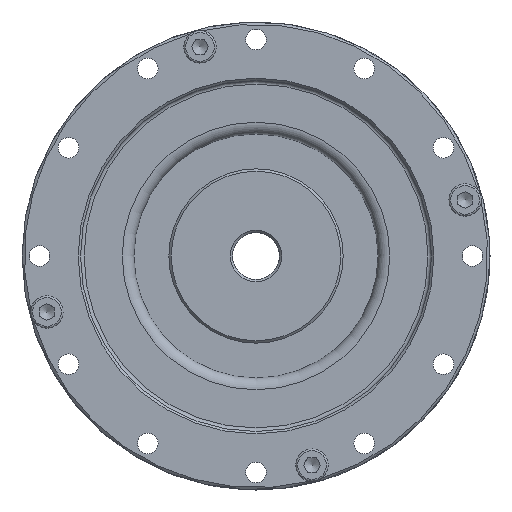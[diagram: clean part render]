
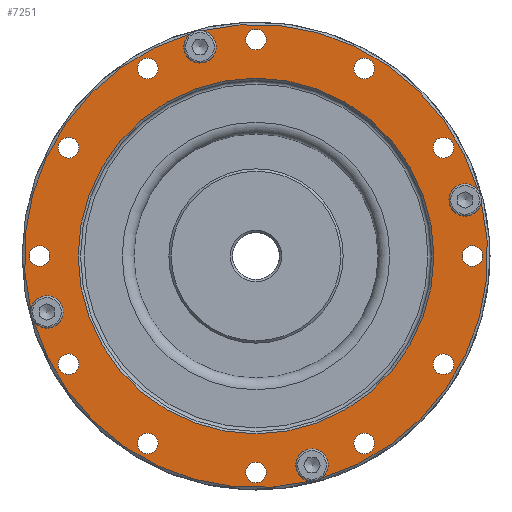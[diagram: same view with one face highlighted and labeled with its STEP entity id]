
A CAD part, left-side view. The second image highlights one B-rep face of the part: STEP entity #7251.
In plain terms, the highlighted planar face has unit normal (-1, 0, 0).
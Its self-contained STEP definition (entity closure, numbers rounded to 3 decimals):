
#757=PLANE('',#8301);
#1171=FACE_BOUND('',#2291,.T.);
#1172=FACE_BOUND('',#2292,.T.);
#1173=FACE_BOUND('',#2293,.T.);
#1174=FACE_BOUND('',#2294,.T.);
#1175=FACE_BOUND('',#2295,.T.);
#1176=FACE_BOUND('',#2296,.T.);
#1177=FACE_BOUND('',#2297,.T.);
#1178=FACE_BOUND('',#2298,.T.);
#1179=FACE_BOUND('',#2299,.T.);
#1180=FACE_BOUND('',#2300,.T.);
#1181=FACE_BOUND('',#2301,.T.);
#1182=FACE_BOUND('',#2302,.T.);
#1183=FACE_BOUND('',#2303,.T.);
#1624=FACE_OUTER_BOUND('',#2290,.T.);
#2290=EDGE_LOOP('',(#6164,#6165,#6166,#6167,#6168,#6169,#6170,#6171));
#2291=EDGE_LOOP('',(#6172));
#2292=EDGE_LOOP('',(#6173));
#2293=EDGE_LOOP('',(#6174));
#2294=EDGE_LOOP('',(#6175));
#2295=EDGE_LOOP('',(#6176));
#2296=EDGE_LOOP('',(#6177));
#2297=EDGE_LOOP('',(#6178));
#2298=EDGE_LOOP('',(#6179));
#2299=EDGE_LOOP('',(#6180));
#2300=EDGE_LOOP('',(#6181));
#2301=EDGE_LOOP('',(#6182));
#2302=EDGE_LOOP('',(#6183));
#2303=EDGE_LOOP('',(#6184));
#2782=CIRCLE('',#8004,2.75);
#2787=CIRCLE('',#8020,2.75);
#2900=CIRCLE('',#8245,1.75);
#2901=CIRCLE('',#8247,1.75);
#2902=CIRCLE('',#8249,1.75);
#2903=CIRCLE('',#8251,1.75);
#2904=CIRCLE('',#8253,1.75);
#2905=CIRCLE('',#8255,1.75);
#2906=CIRCLE('',#8257,1.75);
#2907=CIRCLE('',#8259,1.75);
#2908=CIRCLE('',#8261,1.75);
#2909=CIRCLE('',#8263,1.75);
#2910=CIRCLE('',#8265,1.75);
#2911=CIRCLE('',#8267,1.75);
#2914=CIRCLE('',#8274,30.4);
#2915=CIRCLE('',#8276,39.6);
#2917=CIRCLE('',#8278,39.6);
#2918=CIRCLE('',#8279,39.6);
#2920=CIRCLE('',#8281,39.6);
#2924=CIRCLE('',#8295,2.75);
#2927=CIRCLE('',#8302,2.75);
#3319=VERTEX_POINT('',#12103);
#3320=VERTEX_POINT('',#12104);
#3335=VERTEX_POINT('',#12165);
#3336=VERTEX_POINT('',#12166);
#3475=VERTEX_POINT('',#12615);
#3476=VERTEX_POINT('',#12618);
#3477=VERTEX_POINT('',#12621);
#3478=VERTEX_POINT('',#12624);
#3479=VERTEX_POINT('',#12627);
#3480=VERTEX_POINT('',#12630);
#3481=VERTEX_POINT('',#12633);
#3482=VERTEX_POINT('',#12636);
#3483=VERTEX_POINT('',#12639);
#3484=VERTEX_POINT('',#12642);
#3485=VERTEX_POINT('',#12645);
#3486=VERTEX_POINT('',#12648);
#3489=VERTEX_POINT('',#12658);
#3490=VERTEX_POINT('',#12661);
#3491=VERTEX_POINT('',#12663);
#3492=VERTEX_POINT('',#12666);
#3493=VERTEX_POINT('',#12668);
#4154=EDGE_CURVE('',#3320,#3319,#2782,.T.);
#4177=EDGE_CURVE('',#3336,#3335,#2787,.T.);
#4334=EDGE_CURVE('',#3475,#3475,#2900,.T.);
#4335=EDGE_CURVE('',#3476,#3476,#2901,.T.);
#4336=EDGE_CURVE('',#3477,#3477,#2902,.T.);
#4337=EDGE_CURVE('',#3478,#3478,#2903,.T.);
#4338=EDGE_CURVE('',#3479,#3479,#2904,.T.);
#4339=EDGE_CURVE('',#3480,#3480,#2905,.T.);
#4340=EDGE_CURVE('',#3481,#3481,#2906,.T.);
#4341=EDGE_CURVE('',#3482,#3482,#2907,.T.);
#4342=EDGE_CURVE('',#3483,#3483,#2908,.T.);
#4343=EDGE_CURVE('',#3484,#3484,#2909,.T.);
#4344=EDGE_CURVE('',#3485,#3485,#2910,.T.);
#4345=EDGE_CURVE('',#3486,#3486,#2911,.T.);
#4348=EDGE_CURVE('',#3489,#3489,#2914,.T.);
#4349=EDGE_CURVE('',#3336,#3490,#2915,.T.);
#4351=EDGE_CURVE('',#3491,#3319,#2917,.T.);
#4352=EDGE_CURVE('',#3320,#3492,#2918,.T.);
#4354=EDGE_CURVE('',#3493,#3335,#2920,.T.);
#4376=EDGE_CURVE('',#3491,#3490,#2924,.T.);
#4379=EDGE_CURVE('',#3493,#3492,#2927,.T.);
#6164=ORIENTED_EDGE('',*,*,#4379,.T.);
#6165=ORIENTED_EDGE('',*,*,#4352,.F.);
#6166=ORIENTED_EDGE('',*,*,#4154,.T.);
#6167=ORIENTED_EDGE('',*,*,#4351,.F.);
#6168=ORIENTED_EDGE('',*,*,#4376,.T.);
#6169=ORIENTED_EDGE('',*,*,#4349,.F.);
#6170=ORIENTED_EDGE('',*,*,#4177,.T.);
#6171=ORIENTED_EDGE('',*,*,#4354,.F.);
#6172=ORIENTED_EDGE('',*,*,#4348,.F.);
#6173=ORIENTED_EDGE('',*,*,#4345,.T.);
#6174=ORIENTED_EDGE('',*,*,#4344,.T.);
#6175=ORIENTED_EDGE('',*,*,#4343,.T.);
#6176=ORIENTED_EDGE('',*,*,#4342,.T.);
#6177=ORIENTED_EDGE('',*,*,#4341,.T.);
#6178=ORIENTED_EDGE('',*,*,#4340,.T.);
#6179=ORIENTED_EDGE('',*,*,#4339,.T.);
#6180=ORIENTED_EDGE('',*,*,#4338,.T.);
#6181=ORIENTED_EDGE('',*,*,#4337,.T.);
#6182=ORIENTED_EDGE('',*,*,#4336,.T.);
#6183=ORIENTED_EDGE('',*,*,#4335,.T.);
#6184=ORIENTED_EDGE('',*,*,#4334,.T.);
#7251=ADVANCED_FACE('',(#1624,#1171,#1172,#1173,#1174,#1175,#1176,#1177,
#1178,#1179,#1180,#1181,#1182,#1183),#757,.T.);
#8004=AXIS2_PLACEMENT_3D('',#12126,#9925,#9926);
#8020=AXIS2_PLACEMENT_3D('',#12188,#9969,#9970);
#8245=AXIS2_PLACEMENT_3D('',#12616,#10449,#10450);
#8247=AXIS2_PLACEMENT_3D('',#12619,#10453,#10454);
#8249=AXIS2_PLACEMENT_3D('',#12622,#10457,#10458);
#8251=AXIS2_PLACEMENT_3D('',#12625,#10461,#10462);
#8253=AXIS2_PLACEMENT_3D('',#12628,#10465,#10466);
#8255=AXIS2_PLACEMENT_3D('',#12631,#10469,#10470);
#8257=AXIS2_PLACEMENT_3D('',#12634,#10473,#10474);
#8259=AXIS2_PLACEMENT_3D('',#12637,#10477,#10478);
#8261=AXIS2_PLACEMENT_3D('',#12640,#10481,#10482);
#8263=AXIS2_PLACEMENT_3D('',#12643,#10485,#10486);
#8265=AXIS2_PLACEMENT_3D('',#12646,#10489,#10490);
#8267=AXIS2_PLACEMENT_3D('',#12649,#10493,#10494);
#8274=AXIS2_PLACEMENT_3D('',#12659,#10507,#10508);
#8276=AXIS2_PLACEMENT_3D('',#12662,#10511,#10512);
#8278=AXIS2_PLACEMENT_3D('',#12665,#10515,#10516);
#8279=AXIS2_PLACEMENT_3D('',#12667,#10517,#10518);
#8281=AXIS2_PLACEMENT_3D('',#12670,#10521,#10522);
#8295=AXIS2_PLACEMENT_3D('',#12728,#10561,#10562);
#8301=AXIS2_PLACEMENT_3D('',#12736,#10573,#10574);
#8302=AXIS2_PLACEMENT_3D('',#12737,#10575,#10576);
#9925=DIRECTION('center_axis',(1.,0.,0.));
#9926=DIRECTION('ref_axis',(0.,-1.,0.));
#9969=DIRECTION('center_axis',(1.,0.,0.));
#9970=DIRECTION('ref_axis',(0.,1.,0.));
#10449=DIRECTION('center_axis',(1.,0.,0.));
#10450=DIRECTION('ref_axis',(0.,0.,1.));
#10453=DIRECTION('center_axis',(1.,0.,0.));
#10454=DIRECTION('ref_axis',(0.,-0.5,0.866));
#10457=DIRECTION('center_axis',(1.,0.,0.));
#10458=DIRECTION('ref_axis',(0.,-0.866,0.5));
#10461=DIRECTION('center_axis',(1.,0.,0.));
#10462=DIRECTION('ref_axis',(0.,-1.,0.));
#10465=DIRECTION('center_axis',(1.,0.,0.));
#10466=DIRECTION('ref_axis',(0.,-0.866,-0.5));
#10469=DIRECTION('center_axis',(1.,0.,0.));
#10470=DIRECTION('ref_axis',(0.,-0.5,-0.866));
#10473=DIRECTION('center_axis',(1.,0.,0.));
#10474=DIRECTION('ref_axis',(0.,0.,-1.));
#10477=DIRECTION('center_axis',(1.,0.,0.));
#10478=DIRECTION('ref_axis',(0.,0.5,-0.866));
#10481=DIRECTION('center_axis',(1.,0.,0.));
#10482=DIRECTION('ref_axis',(0.,0.866,-0.5));
#10485=DIRECTION('center_axis',(1.,0.,0.));
#10486=DIRECTION('ref_axis',(0.,1.,0.));
#10489=DIRECTION('center_axis',(1.,0.,0.));
#10490=DIRECTION('ref_axis',(0.,0.866,0.5));
#10493=DIRECTION('center_axis',(1.,0.,0.));
#10494=DIRECTION('ref_axis',(0.,0.5,0.866));
#10507=DIRECTION('center_axis',(-1.,0.,0.));
#10508=DIRECTION('ref_axis',(0.,-1.,0.));
#10511=DIRECTION('center_axis',(1.,0.,0.));
#10512=DIRECTION('ref_axis',(0.,-1.,0.));
#10515=DIRECTION('center_axis',(1.,0.,0.));
#10516=DIRECTION('ref_axis',(0.,-1.,0.));
#10517=DIRECTION('center_axis',(1.,0.,0.));
#10518=DIRECTION('ref_axis',(0.,-1.,0.));
#10521=DIRECTION('center_axis',(1.,0.,0.));
#10522=DIRECTION('ref_axis',(0.,-1.,0.));
#10561=DIRECTION('center_axis',(1.,0.,0.));
#10562=DIRECTION('ref_axis',(0.,0.,1.));
#10573=DIRECTION('center_axis',(-1.,0.,0.));
#10574=DIRECTION('ref_axis',(0.,0.,1.));
#10575=DIRECTION('center_axis',(1.,0.,0.));
#10576=DIRECTION('ref_axis',(0.,0.,-1.));
#12103=CARTESIAN_POINT('',(-3.,-38.,11.142));
#12104=CARTESIAN_POINT('',(-3.,-38.48,9.351));
#12126=CARTESIAN_POINT('Origin',(-3.,-35.739,9.576));
#12165=CARTESIAN_POINT('',(-3.,38.,-11.142));
#12166=CARTESIAN_POINT('',(-3.,38.48,-9.351));
#12188=CARTESIAN_POINT('Origin',(-3.,35.739,-9.576));
#12615=CARTESIAN_POINT('',(-3.,37.,1.75));
#12616=CARTESIAN_POINT('Origin',(-3.,37.,0.));
#12618=CARTESIAN_POINT('',(-3.,31.168,20.016));
#12619=CARTESIAN_POINT('Origin',(-3.,32.043,18.5));
#12621=CARTESIAN_POINT('',(-3.,16.984,32.918));
#12622=CARTESIAN_POINT('Origin',(-3.,18.5,32.043));
#12624=CARTESIAN_POINT('',(-3.,-1.75,37.));
#12625=CARTESIAN_POINT('Origin',(-3.,0.,37.));
#12627=CARTESIAN_POINT('',(-3.,-20.016,31.168));
#12628=CARTESIAN_POINT('Origin',(-3.,-18.5,32.043));
#12630=CARTESIAN_POINT('',(-3.,-32.918,16.984));
#12631=CARTESIAN_POINT('Origin',(-3.,-32.043,18.5));
#12633=CARTESIAN_POINT('',(-3.,-37.,-1.75));
#12634=CARTESIAN_POINT('Origin',(-3.,-37.,0.));
#12636=CARTESIAN_POINT('',(-3.,-31.168,-20.016));
#12637=CARTESIAN_POINT('Origin',(-3.,-32.043,-18.5));
#12639=CARTESIAN_POINT('',(-3.,-16.984,-32.918));
#12640=CARTESIAN_POINT('Origin',(-3.,-18.5,-32.043));
#12642=CARTESIAN_POINT('',(-3.,1.75,-37.));
#12643=CARTESIAN_POINT('Origin',(-3.,0.,-37.));
#12645=CARTESIAN_POINT('',(-3.,20.016,-31.168));
#12646=CARTESIAN_POINT('Origin',(-3.,18.5,-32.043));
#12648=CARTESIAN_POINT('',(-3.,32.918,-16.984));
#12649=CARTESIAN_POINT('Origin',(-3.,32.043,-18.5));
#12658=CARTESIAN_POINT('',(-3.,30.4,0.));
#12659=CARTESIAN_POINT('Origin',(-3.,0.,0.));
#12661=CARTESIAN_POINT('',(-3.,11.142,38.));
#12662=CARTESIAN_POINT('Origin',(-3.,0.,0.));
#12663=CARTESIAN_POINT('',(-3.,9.351,38.48));
#12665=CARTESIAN_POINT('Origin',(-3.,0.,0.));
#12666=CARTESIAN_POINT('',(-3.,-11.142,-38.));
#12667=CARTESIAN_POINT('Origin',(-3.,0.,0.));
#12668=CARTESIAN_POINT('',(-3.,-9.351,-38.48));
#12670=CARTESIAN_POINT('Origin',(-3.,0.,0.));
#12728=CARTESIAN_POINT('Origin',(-3.,9.576,35.739));
#12736=CARTESIAN_POINT('Origin',(-3.,40.,0.));
#12737=CARTESIAN_POINT('Origin',(-3.,-9.576,-35.739));
